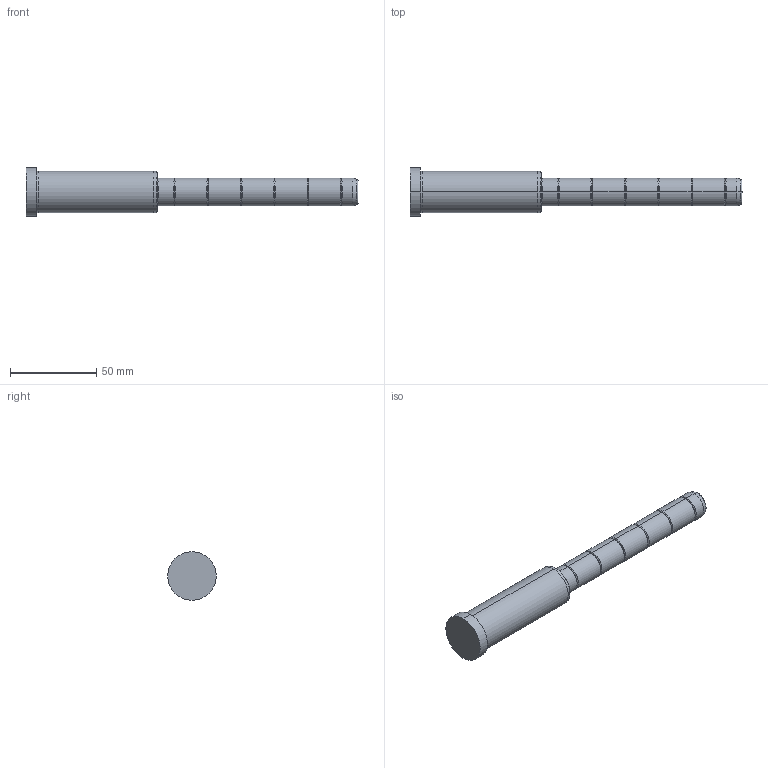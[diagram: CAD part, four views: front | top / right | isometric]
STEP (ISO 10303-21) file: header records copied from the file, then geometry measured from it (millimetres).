
FILE_DESCRIPTION( ( 'STEP AP203' ), '1' );
FILE_NAME( 'D:/Delta 3 D/D02/16/D02 - 16x76x116.step', '2003-01-04T13:05:17', ( ' ' ), ( ' ' ), 'XStep 1.0', ' ', ' ' );
FILE_SCHEMA( ( 'CONFIG_CONTROL_DESIGN' ) );
Length unit declared in the file: metre
Products named in the file (1): 1
Bounding box: 192 x 28 x 28 mm (x, y, z)
Volume: 58550 mm3; surface area: 12942.5 mm2
Topology: 1 solids, 1 shells, 60 faces, 118 edges, 64 vertices
Faces by surface type: bspline 34, revolution 26
Entity records: 1919 total; most frequent: CARTESIAN_POINT 817, ORIENTED_EDGE 236, DIRECTION 182, EDGE_CURVE 118, AXIS2_PLACEMENT_3D 65, EDGE_LOOP 64, VERTEX_POINT 64, CIRCLE 64
